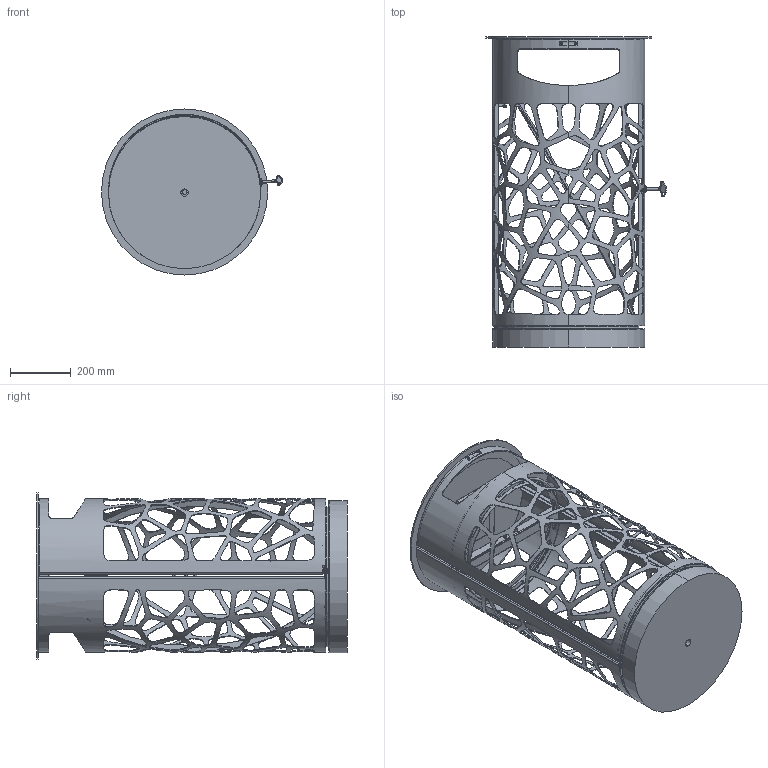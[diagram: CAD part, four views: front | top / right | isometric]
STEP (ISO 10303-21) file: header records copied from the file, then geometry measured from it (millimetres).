
FILE_DESCRIPTION (( 'STEP AP203' ), '1' );
FILE_NAME ('AS2405331.STEP', '2024-09-12T14:56:22', ( '' ), ( '' ), 'SwSTEP 2.0', 'SolidWorks 2022', '' );
FILE_SCHEMA (( 'CONFIG_CONTROL_DESIGN' ));
Length unit declared in the file: millimetre
Products named in the file (42): 8460940; 8404270; 8491910; 8409540; CLAM00056; CLAM00063; 8460680; CLAM00061; CVAR00003; CLAM00062; CLAM00065; AS2405331; CCEH00001; 8460890; 8400400; CLAM00057; 8399320; 7160400; 8409330; 8409510; 7167931; 7160560; 8404040; 7160570; CLAM00059; CLAM00060; CTUB00029; CLAM00064; 8408070; 8950110; 8410570; CCEN00001; 8491480_D=501; CLAM00066; CLAM00058; 8409530; CCEG00001; 8404260; CTUB00028; 8492040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
Assembly tree (65 placements, depth 3):
  AS2405331
    CCEH00001
      CLAM00060
      CLAM00061
      CLAM00056
      CTUB00028  x2
      CLAM00062
      CLAM00063  x2
      CLAM00059
      CLAM00058
      7167931
    CCEN00001
      CLAM00057
      CLAM00056  x3
      CLAM00058
    CCEG00001
      CLAM00064
      CLAM00065
      CTUB00029
    7160400
      7160560
      7160570
      8408070  x2
    CLAM00066
    CVAR00003  x2
    8950110
    8491480_D=501
    8460890
    8460940
    8491910  x2
    8460680
    8399320  x2
    8409540
    8404260
    8492040  x3
    8409530
    8404040
    8400400  x2
    8409510  x2
    8409330  x2
    8410570
    8430520  x4
    PA2302373  x4
    8404270  x4
Bounding box: 594.82 x 1020 x 546 mm (x, y, z)
Volume: 18525802.4 mm3; surface area: 3599132 mm2
Topology: 63 solids, 63 shells, 1906 faces, 4915 edges, 3106 vertices
Faces by surface type: plane 681, cylinder 577, bspline 366, cone 166, torus 110, sphere 6
Entity records: 191300 total; most frequent: CARTESIAN_POINT 153074, ORIENTED_EDGE 7498, DIRECTION 5852, EDGE_CURVE 3749, VERTEX_POINT 2384, AXIS2_PLACEMENT_3D 2268, EDGE_LOOP 1687, FACE_OUTER_BOUND 1419
